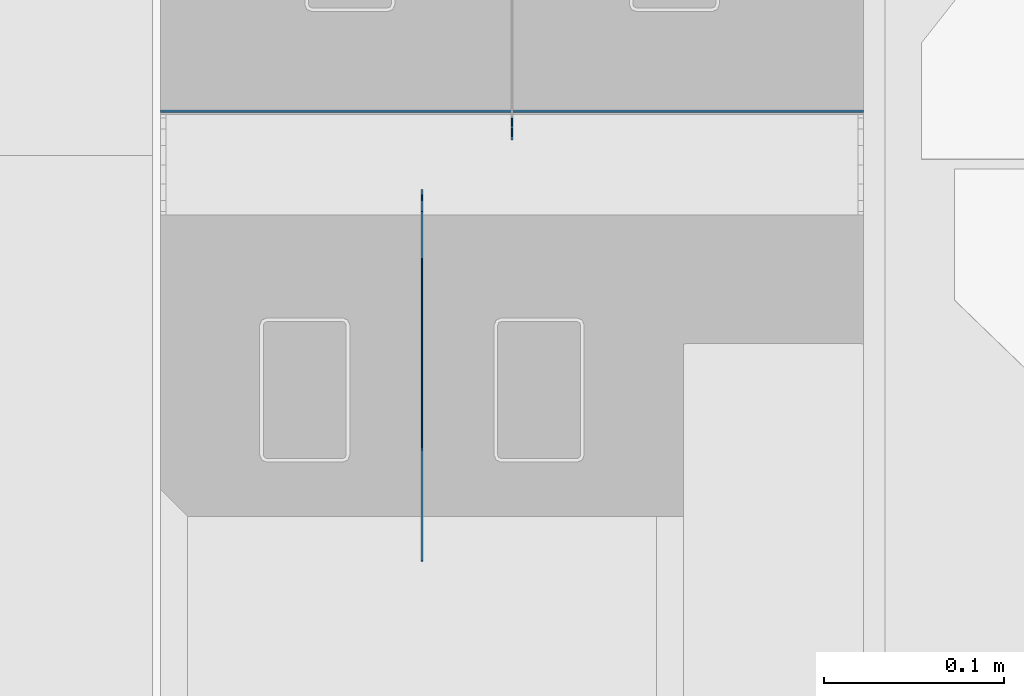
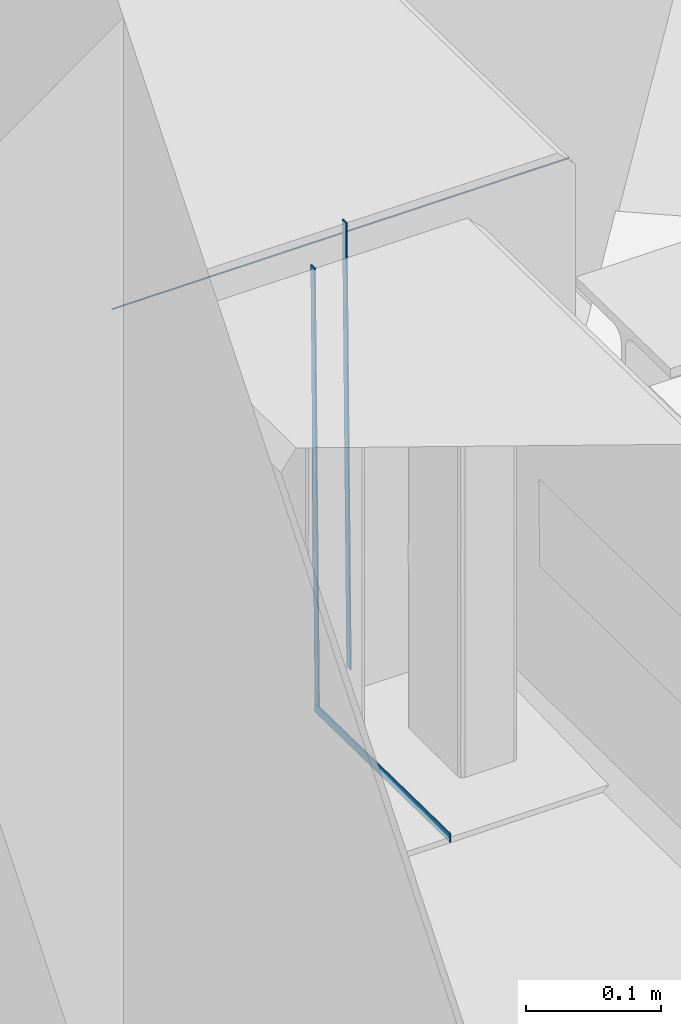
# One storey, part 12 of 186: 4 beams.
"""IFC4X3_ADD2 building model written with IfcOpenShell, lengths in millimetres."""

from ifc_helpers import new_model, si_unit, direction, frame, frame_2d, origin_with_axes, place, context, subcontext, project, spatial, rectangle, extrude, material, element, save


model = new_model("IFC4X3_ADD2")

# Units and contexts
model_context = context("Model", 3, precision=1e-05, world=origin_with_axes(), true_north=direction((0.0, 1.0)))
body_context = subcontext(model_context, "Body", "Model", "MODEL_VIEW")
ifc_project = project(units=[si_unit("LENGTHUNIT", "METRE", prefix="MILLI"), si_unit("AREAUNIT", "SQUARE_METRE"), si_unit("VOLUMEUNIT", "CUBIC_METRE"), si_unit("PLANEANGLEUNIT", "RADIAN"), si_unit("TIMEUNIT", "SECOND"), si_unit("MASSUNIT", "GRAM")], contexts=[model_context])

# Site, building, storey
site_placement = place(None, origin_with_axes())
site = spatial("IfcSite", under=ifc_project, at=site_placement, Name="Site", CompositionType="ELEMENT")
building_placement = place(site_placement, origin_with_axes())
building = spatial("IfcBuilding", under=site, at=building_placement, Name="IFC Building Story")
storey_placement = place(building_placement, frame((0.0, 0.0, 4370.0), z_axis=(0.0, 0.0, 1.0), x_axis=(1.0, 0.0, 0.0)))
storey = spatial("IfcBuildingStorey", under=building, at=storey_placement, Name="ETAGE 10 (1)", Elevation=4370.0)

# Beams
ifc_material_1 = material(Name="STEEL/Accessory_invisible 261")
beam_1_placement = place(storey_placement, frame((33401.6876988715, -8015.11545562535, 3074.402176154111), z_axis=(-1.0, 0.0, 0.0), x_axis=(0.0, 0.01553280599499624, 0.9998793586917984)))
element("IfcBeam", 1, at=beam_1_placement, inside=storey, material=ifc_material_1, Name="BEK4", ObjectType="6*1 3", context=body_context, shape_type="SweptSolid", body=[
    extrude(rectangle(XDim=400.000000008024, YDim=6.00000000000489, at=frame_2d((0.0, 5.95523630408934e-12), x_axis=(1.0, 0.0))), origin_with_axes(), (0.0, 0.0, 1.0), 1.0),
])
beam_2_placement = place(storey_placement, frame((33350.6876992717, -8154.93548027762, 2880.526007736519), z_axis=(1.0, 0.0, 0.0), x_axis=(0.0, 0.01554157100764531, 0.9998792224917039)))
element("IfcBeam", 2, at=beam_2_placement, inside=storey, material=ifc_material_1, Name="BEK4", ObjectType="8*1", context=body_context, shape_type="SweptSolid", body=[
    extrude(rectangle(XDim=8.00000000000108, YDim=200.024108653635, at=frame_2d((0.0, 5.95523630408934e-12), x_axis=(1.0, 0.0))), origin_with_axes(), (0.0, 0.0, 1.0), 1.0),
])
beam_3_placement = place(storey_placement, frame((33351.6876988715, -8054.82505632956, 3078.994131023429), z_axis=(-1.0, 0.0, 0.0), x_axis=(0.0, 0.01555025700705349, 0.9998790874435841)))
element("IfcBeam", 3, at=beam_3_placement, inside=storey, material=ifc_material_1, Name="BEK4", ObjectType="6*1", context=body_context, shape_type="SweptSolid", body=[
    extrude(rectangle(XDim=392.000000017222, YDim=6.0, at=frame_2d((0.0, 5.95523630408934e-12), x_axis=(1.0, 0.0))), origin_with_axes(), (0.0, 0.0, 1.0), 1.0),
])
ifc_material_2 = material(Name="STEEL/Accessory_invisible")
beam_4_placement = place(storey_placement, frame((33596.0876988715, -8005.25124303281, 3258.771194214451), z_axis=(-1.0, 0.0, 0.0), x_axis=(0.0, 1.0, 0.0)))
element("IfcBeam", 4, at=beam_4_placement, inside=storey, material=ifc_material_2, Name="ZW3", ObjectType="1*1 3", context=body_context, shape_type="SweptSolid", body=[
    extrude(rectangle(XDim=0.9999999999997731, YDim=0.9999999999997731, at=frame_2d((0.0, 5.95523630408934e-12), x_axis=(1.0, 0.0))), origin_with_axes(), (0.0, 0.0, 1.0), 389.8999999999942),
])

save(model, "model.ifc")
